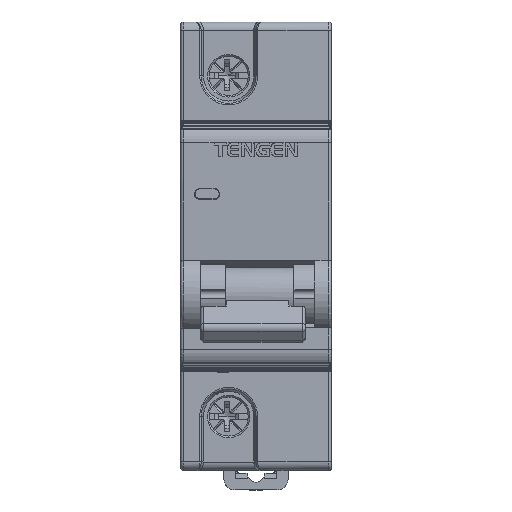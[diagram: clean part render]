
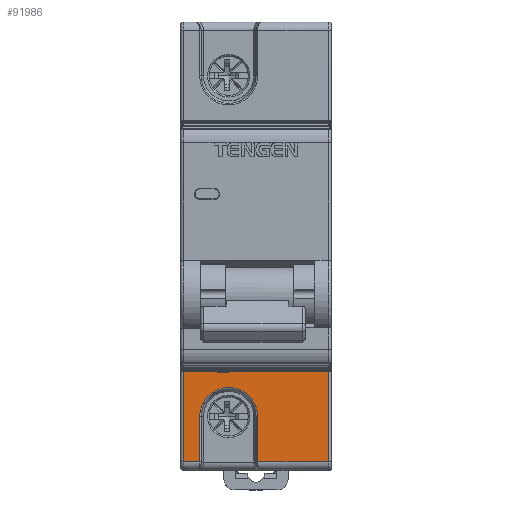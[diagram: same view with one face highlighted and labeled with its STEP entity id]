
A CAD part, top view. The second image highlights one B-rep face of the part: STEP entity #91986.
In plain terms, the highlighted planar face has unit normal (0, 0, 1) as drawn and (0, 1, 0) by its records, which use the part's own axes.
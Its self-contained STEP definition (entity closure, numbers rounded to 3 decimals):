
#5662 = CARTESIAN_POINT ( 'NONE',  ( -21.6, 44., 0.5 ) ) ;
#6921 = ORIENTED_EDGE ( 'NONE', *, *, #65566, .T. ) ;
#7948 = ORIENTED_EDGE ( 'NONE', *, *, #76166, .F. ) ;
#10211 = VERTEX_POINT ( 'NONE', #86377 ) ;
#10772 = LINE ( 'NONE', #37949, #19699 ) ;
#11353 = DIRECTION ( 'NONE',  ( 1., 0., 0. ) ) ;
#11599 = LINE ( 'NONE', #21984, #67046 ) ;
#13827 = DIRECTION ( 'NONE',  ( 0., -1., 0. ) ) ;
#17368 = LINE ( 'NONE', #58623, #54963 ) ;
#17401 = VERTEX_POINT ( 'NONE', #34526 ) ;
#18474 = DIRECTION ( 'NONE',  ( 0., 0., 1. ) ) ;
#19699 = VECTOR ( 'NONE', #11353, 1000. ) ;
#21984 = CARTESIAN_POINT ( 'NONE',  ( -38.65, 44., 13.785 ) ) ;
#23772 = DIRECTION ( 'NONE',  ( -1., 0., 0. ) ) ;
#25826 = LINE ( 'NONE', #61695, #100301 ) ;
#26340 = DIRECTION ( 'NONE',  ( -1., 0., 0. ) ) ;
#26448 = ORIENTED_EDGE ( 'NONE', *, *, #93294, .F. ) ;
#28164 = VERTEX_POINT ( 'NONE', #111030 ) ;
#29114 = CARTESIAN_POINT ( 'NONE',  ( -22.5, 44., 8.6 ) ) ;
#29606 = CIRCLE ( 'NONE', #62875, 5.185 ) ;
#30010 = CARTESIAN_POINT ( 'NONE',  ( -22.575, 44., 6.6 ) ) ;
#31284 = VECTOR ( 'NONE', #94142, 1000. ) ;
#33022 = LINE ( 'NONE', #111173, #93508 ) ;
#34061 = DIRECTION ( 'NONE',  ( 0., -1., 0. ) ) ;
#34198 = VERTEX_POINT ( 'NONE', #112183 ) ;
#34526 = CARTESIAN_POINT ( 'NONE',  ( -21.6, 44., 0.5 ) ) ;
#35150 = VERTEX_POINT ( 'NONE', #29114 ) ;
#37528 = CARTESIAN_POINT ( 'NONE',  ( -38.65, 44., 0.5 ) ) ;
#37949 = CARTESIAN_POINT ( 'NONE',  ( -38.65, 44., 26.5 ) ) ;
#39545 = DIRECTION ( 'NONE',  ( 1., 0., 0. ) ) ;
#39639 = VECTOR ( 'NONE', #80333, 1000. ) ;
#40522 = LINE ( 'NONE', #111109, #54279 ) ;
#41548 = VERTEX_POINT ( 'NONE', #30010 ) ;
#42732 = DIRECTION ( 'NONE',  ( 0., 0., -1. ) ) ;
#43702 = LINE ( 'NONE', #78972, #56872 ) ;
#45542 = VERTEX_POINT ( 'NONE', #103070 ) ;
#45852 = EDGE_CURVE ( 'NONE', #55797, #28164, #11599, .T. ) ;
#47083 = LINE ( 'NONE', #108981, #87722 ) ;
#48299 = EDGE_CURVE ( 'NONE', #109431, #112039, #108674, .T. ) ;
#48686 = EDGE_CURVE ( 'NONE', #34198, #35150, #47083, .T. ) ;
#49622 = LINE ( 'NONE', #5662, #31284 ) ;
#51959 = CARTESIAN_POINT ( 'NONE',  ( -21.6, 44., 0.5 ) ) ;
#54279 = VECTOR ( 'NONE', #18474, 1000. ) ;
#54963 = VECTOR ( 'NONE', #85225, 1000. ) ;
#55797 = VERTEX_POINT ( 'NONE', #82231 ) ;
#56872 = VECTOR ( 'NONE', #26340, 1000. ) ;
#58623 = CARTESIAN_POINT ( 'NONE',  ( -38.65, 44., 3.415 ) ) ;
#61115 = DIRECTION ( 'NONE',  ( 0., 0., -1. ) ) ;
#61678 = EDGE_CURVE ( 'NONE', #45542, #55797, #43702, .T. ) ;
#61695 = CARTESIAN_POINT ( 'NONE',  ( -22.5, 44., 26.5 ) ) ;
#62875 = AXIS2_PLACEMENT_3D ( 'NONE', #111624, #34061, #42732 ) ;
#65566 = EDGE_CURVE ( 'NONE', #17401, #109431, #80274, .T. ) ;
#66451 = VECTOR ( 'NONE', #87234, 1000. ) ;
#66459 = CARTESIAN_POINT ( 'NONE',  ( -21.65, 44., 1.8 ) ) ;
#67046 = VECTOR ( 'NONE', #83867, 1000. ) ;
#67897 = ORIENTED_EDGE ( 'NONE', *, *, #45852, .T. ) ;
#68764 = VERTEX_POINT ( 'NONE', #93573 ) ;
#74931 = AXIS2_PLACEMENT_3D ( 'NONE', #66459, #13827, #101759 ) ;
#76166 = EDGE_CURVE ( 'NONE', #17401, #10211, #49622, .T. ) ;
#76952 = VERTEX_POINT ( 'NONE', #95549 ) ;
#77560 = ORIENTED_EDGE ( 'NONE', *, *, #102633, .T. ) ;
#78972 = CARTESIAN_POINT ( 'NONE',  ( -30.5, 44., 13.785 ) ) ;
#80274 = LINE ( 'NONE', #51959, #66451 ) ;
#80333 = DIRECTION ( 'NONE',  ( 0., 0., 1. ) ) ;
#82231 = CARTESIAN_POINT ( 'NONE',  ( -38.65, 44., 13.785 ) ) ;
#83867 = DIRECTION ( 'NONE',  ( 0., 0., 1. ) ) ;
#85225 = DIRECTION ( 'NONE',  ( 1., 0., 0. ) ) ;
#86377 = CARTESIAN_POINT ( 'NONE',  ( -21.6, 44., 6.6 ) ) ;
#86760 = EDGE_CURVE ( 'NONE', #68764, #35150, #25826, .T. ) ;
#87234 = DIRECTION ( 'NONE',  ( -1., 0., 0. ) ) ;
#87722 = VECTOR ( 'NONE', #39545, 1000. ) ;
#88003 = EDGE_CURVE ( 'NONE', #41548, #34198, #40522, .T. ) ;
#88102 = ORIENTED_EDGE ( 'NONE', *, *, #107805, .T. ) ;
#91439 = EDGE_CURVE ( 'NONE', #28164, #68764, #10772, .T. ) ;
#91986 = ADVANCED_FACE ( 'NONE', ( #93635 ), #92503, .F. ) ;
#92503 = PLANE ( 'NONE',  #74931 ) ;
#93294 = EDGE_CURVE ( 'NONE', #10211, #41548, #33022, .T. ) ;
#93498 = ORIENTED_EDGE ( 'NONE', *, *, #48686, .F. ) ;
#93508 = VECTOR ( 'NONE', #23772, 1000. ) ;
#93561 = CARTESIAN_POINT ( 'NONE',  ( -38.65, 44., 0.5 ) ) ;
#93573 = CARTESIAN_POINT ( 'NONE',  ( -22.5, 44., 26.5 ) ) ;
#93635 = FACE_OUTER_BOUND ( 'NONE', #93718, .T. ) ;
#93718 = EDGE_LOOP ( 'NONE', ( #26448, #7948, #6921, #98589, #77560, #88102, #107003, #67897, #114517, #99721, #93498, #109801 ) ) ;
#94142 = DIRECTION ( 'NONE',  ( 0., 0., 1. ) ) ;
#95549 = CARTESIAN_POINT ( 'NONE',  ( -30.5, 44., 3.415 ) ) ;
#98589 = ORIENTED_EDGE ( 'NONE', *, *, #48299, .T. ) ;
#99721 = ORIENTED_EDGE ( 'NONE', *, *, #86760, .T. ) ;
#100301 = VECTOR ( 'NONE', #61115, 1000. ) ;
#101759 = DIRECTION ( 'NONE',  ( 0., 0., -1. ) ) ;
#102633 = EDGE_CURVE ( 'NONE', #112039, #76952, #17368, .T. ) ;
#103070 = CARTESIAN_POINT ( 'NONE',  ( -30.5, 44., 13.785 ) ) ;
#107003 = ORIENTED_EDGE ( 'NONE', *, *, #61678, .T. ) ;
#107805 = EDGE_CURVE ( 'NONE', #76952, #45542, #29606, .T. ) ;
#108674 = LINE ( 'NONE', #37528, #39639 ) ;
#108981 = CARTESIAN_POINT ( 'NONE',  ( -22.575, 44., 8.6 ) ) ;
#109431 = VERTEX_POINT ( 'NONE', #93561 ) ;
#109517 = CARTESIAN_POINT ( 'NONE',  ( -38.65, 44., 3.415 ) ) ;
#109801 = ORIENTED_EDGE ( 'NONE', *, *, #88003, .F. ) ;
#111030 = CARTESIAN_POINT ( 'NONE',  ( -38.65, 44., 26.5 ) ) ;
#111109 = CARTESIAN_POINT ( 'NONE',  ( -22.575, 44., 6.6 ) ) ;
#111173 = CARTESIAN_POINT ( 'NONE',  ( -21.6, 44., 6.6 ) ) ;
#111624 = CARTESIAN_POINT ( 'NONE',  ( -30.5, 44., 8.6 ) ) ;
#112039 = VERTEX_POINT ( 'NONE', #109517 ) ;
#112183 = CARTESIAN_POINT ( 'NONE',  ( -22.575, 44., 8.6 ) ) ;
#114517 = ORIENTED_EDGE ( 'NONE', *, *, #91439, .T. ) ;
